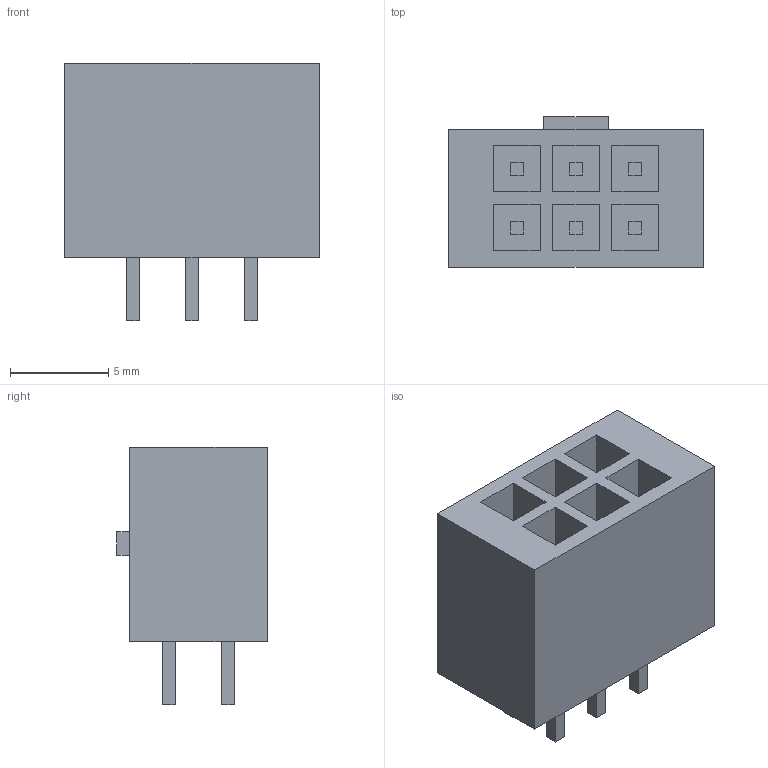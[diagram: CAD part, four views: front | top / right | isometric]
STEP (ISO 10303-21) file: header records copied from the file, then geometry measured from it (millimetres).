
FILE_DESCRIPTION(('Open CASCADE Model'),'2;1');
FILE_NAME('Open CASCADE Shape Model','2026-10-31T17:06:59',('Author'),( 'Open CASCADE'),'Open CASCADE STEP processor 7.9','Open CASCADE 7.9' ,'Unknown');
FILE_SCHEMA(('AUTOMOTIVE_DESIGN { 1 0 10303 214 1 1 1 1 }'));
Length unit declared in the file: millimetre
Products named in the file (8): MicroFit_6_visual; black_shroud; contact_1; contact_2; contact_3; contact_4; contact_5; contact_6
Assembly tree (7 placements, depth 2):
  MicroFit_6_visual
    black_shroud
    contact_1
    contact_2
    contact_3
    contact_4
    contact_5
    contact_6
Bounding box: 12.9 x 7.65 x 13.1 mm (x, y, z)
Volume: 679.7 mm3; surface area: 1177.6 mm2
Topology: 7 solids, 7 shells, 77 faces, 168 edges, 112 vertices
Faces by surface type: plane 77
Entity records: 4372 total; most frequent: CARTESIAN_POINT 757, DIRECTION 618, LINE 448, VECTOR 448, ORIENTED_EDGE 336, PCURVE 336, DEFINITIONAL_REPRESENTATION 336, EDGE_CURVE 168
